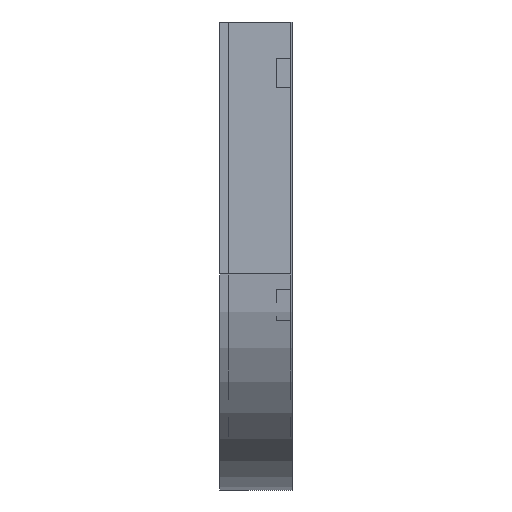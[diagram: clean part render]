
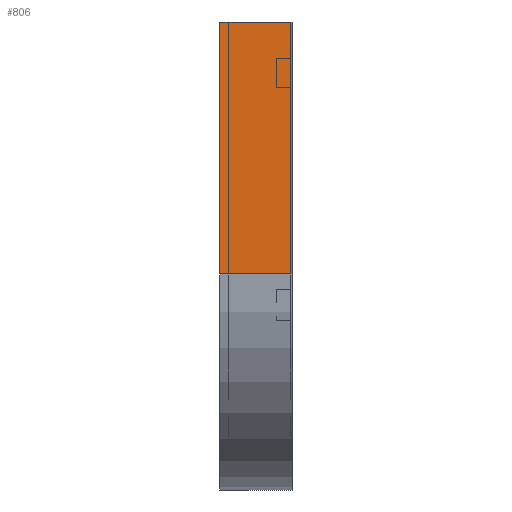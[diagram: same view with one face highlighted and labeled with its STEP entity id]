
A CAD part, left-side view. The second image highlights one B-rep face of the part: STEP entity #806.
In plain terms, the highlighted planar face has unit normal (-1, 0, 0).
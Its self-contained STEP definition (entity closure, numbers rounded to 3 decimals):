
#81 = DIRECTION ( 'NONE',  ( 0., 0., -1. ) ) ;
#88 = VERTEX_POINT ( 'NONE', #1090 ) ;
#109 = ORIENTED_EDGE ( 'NONE', *, *, #1328, .F. ) ;
#125 = VECTOR ( 'NONE', #1344, 1000. ) ;
#154 = CARTESIAN_POINT ( 'NONE',  ( 0., 100., 0. ) ) ;
#245 = VERTEX_POINT ( 'NONE', #566 ) ;
#252 = CARTESIAN_POINT ( 'NONE',  ( 0., 100., 0. ) ) ;
#419 = DIRECTION ( 'NONE',  ( 0., 0., -1. ) ) ;
#512 = EDGE_CURVE ( 'NONE', #1797, #88, #1137, .T. ) ;
#558 = CARTESIAN_POINT ( 'NONE',  ( 0., 0., 0. ) ) ;
#566 = CARTESIAN_POINT ( 'NONE',  ( 0., 0., -350. ) ) ;
#569 = VERTEX_POINT ( 'NONE', #716 ) ;
#596 = LINE ( 'NONE', #1760, #1065 ) ;
#638 = CARTESIAN_POINT ( 'NONE',  ( 0., 0., 0. ) ) ;
#716 = CARTESIAN_POINT ( 'NONE',  ( 0., 100., -350. ) ) ;
#754 = ORIENTED_EDGE ( 'NONE', *, *, #1811, .T. ) ;
#759 = ORIENTED_EDGE ( 'NONE', *, *, #1003, .T. ) ;
#806 = ADVANCED_FACE ( 'NONE', ( #1114 ), #1710, .F. ) ;
#870 = VECTOR ( 'NONE', #81, 1000. ) ;
#898 = LINE ( 'NONE', #154, #125 ) ;
#972 = DIRECTION ( 'NONE',  ( 1., 0., 0. ) ) ;
#997 = ORIENTED_EDGE ( 'NONE', *, *, #512, .F. ) ;
#1003 = EDGE_CURVE ( 'NONE', #1797, #569, #898, .T. ) ;
#1065 = VECTOR ( 'NONE', #1482, 1000. ) ;
#1090 = CARTESIAN_POINT ( 'NONE',  ( 0., 0., 0. ) ) ;
#1114 = FACE_OUTER_BOUND ( 'NONE', #1277, .T. ) ;
#1137 = LINE ( 'NONE', #1589, #1259 ) ;
#1259 = VECTOR ( 'NONE', #1581, 1000. ) ;
#1277 = EDGE_LOOP ( 'NONE', ( #109, #997, #759, #754 ) ) ;
#1328 = EDGE_CURVE ( 'NONE', #88, #245, #1491, .T. ) ;
#1344 = DIRECTION ( 'NONE',  ( 0., 0., -1. ) ) ;
#1482 = DIRECTION ( 'NONE',  ( 0., -1., 0. ) ) ;
#1491 = LINE ( 'NONE', #638, #870 ) ;
#1581 = DIRECTION ( 'NONE',  ( 0., -1., 0. ) ) ;
#1589 = CARTESIAN_POINT ( 'NONE',  ( 0., 0., 0. ) ) ;
#1656 = AXIS2_PLACEMENT_3D ( 'NONE', #558, #972, #419 ) ;
#1710 = PLANE ( 'NONE',  #1656 ) ;
#1760 = CARTESIAN_POINT ( 'NONE',  ( 0., 0., -350. ) ) ;
#1797 = VERTEX_POINT ( 'NONE', #252 ) ;
#1811 = EDGE_CURVE ( 'NONE', #569, #245, #596, .T. ) ;
